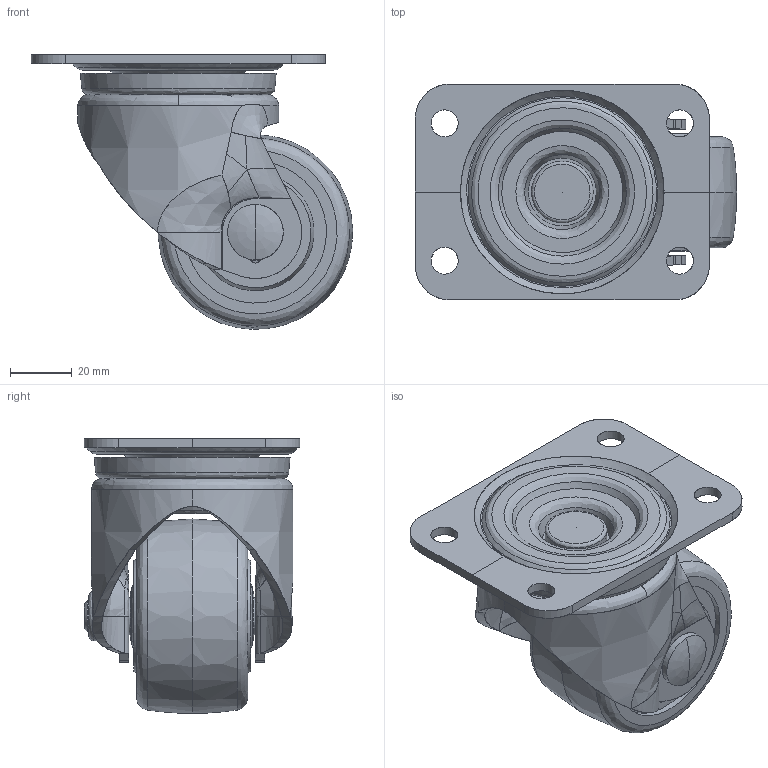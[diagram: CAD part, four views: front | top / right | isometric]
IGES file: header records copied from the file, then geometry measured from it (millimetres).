
Start section: JAMA-IS VERSION  1.0
Global section: file name: C:\CAM-TOOL data\ToolsFile\INOAC車輪\9月\FP63BOWJ-ALL.igs; native system: CAM-TOOL; preprocessor: C3out Version 11.1.1.50212 (2015/02/12); author: NONE; organization: NONE; date: 231014.220209; units: millimetre
Bounding box: 104.09 x 69.9 x 88.98 mm (x, y, z)
Surface area: 80161.4 mm2 (no closed solid volume)
Topology: 0 solids, 0 shells, 291 faces, 3302 edges, 4073 vertices
Faces by surface type: bspline 291
